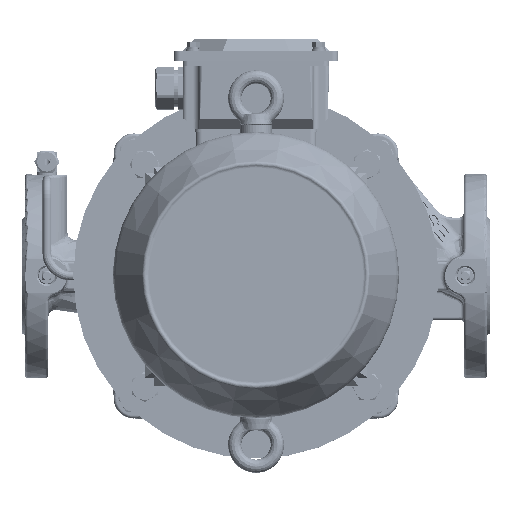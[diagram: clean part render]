
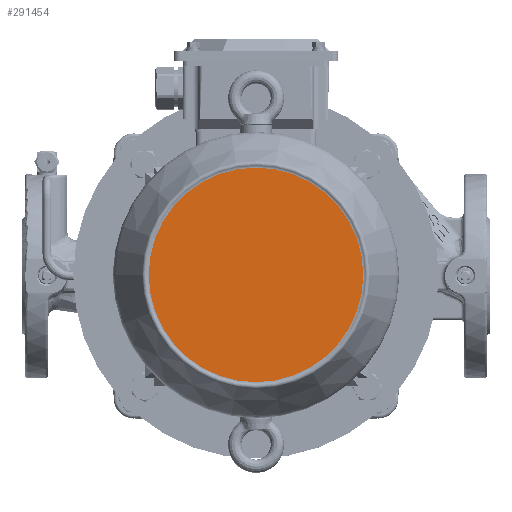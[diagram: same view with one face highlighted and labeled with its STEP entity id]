
A CAD part, top view. The second image highlights one B-rep face of the part: STEP entity #291454.
In plain terms, the highlighted planar face has unit normal (0, 0, 1) as drawn and (0, 1, 0) by its records, which use the part's own axes.
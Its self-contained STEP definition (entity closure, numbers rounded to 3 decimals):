
#262404=CARTESIAN_POINT('',(0.,62.61,
0.));
#262405=DIRECTION('',(0.,-1.,0.));
#262406=DIRECTION('',(0.,0.,1.));
#262407=AXIS2_PLACEMENT_3D('',#262404,#262405,#262406);
#262409=CARTESIAN_POINT('',(0.,62.61,
0.));
#262410=DIRECTION('',(0.,-1.,0.));
#262411=DIRECTION('',(0.,0.,-1.));
#262412=AXIS2_PLACEMENT_3D('',#262409,#262410,#262411);
#266855=CARTESIAN_POINT('',(0.,62.61,
-73.366));
#266856=VERTEX_POINT('',#266855);
#266857=CARTESIAN_POINT('',(0.,62.61,
73.366));
#266858=VERTEX_POINT('',#266857);
#291445=CARTESIAN_POINT('',(0.,62.61,
0.));
#291446=DIRECTION('',(0.,1.,0.));
#291447=DIRECTION('',(0.,0.,-1.));
#291448=AXIS2_PLACEMENT_3D('',#291445,#291446,#291447);
#291449=PLANE('',#291448);
#291450=ORIENTED_EDGE('',*,*,#291438,.T.);
#291451=ORIENTED_EDGE('',*,*,#291424,.T.);
#291452=EDGE_LOOP('',(#291450,#291451));
#291453=FACE_OUTER_BOUND('',#291452,.F.);
#291454=ADVANCED_FACE('',(#291453),#291449,.T.);
#262408=CIRCLE('',#262407,73.366);
#262413=CIRCLE('',#262412,73.366);
#291424=EDGE_CURVE('',#266856,#266858,#262413,.T.);
#291438=EDGE_CURVE('',#266858,#266856,#262408,.T.);
